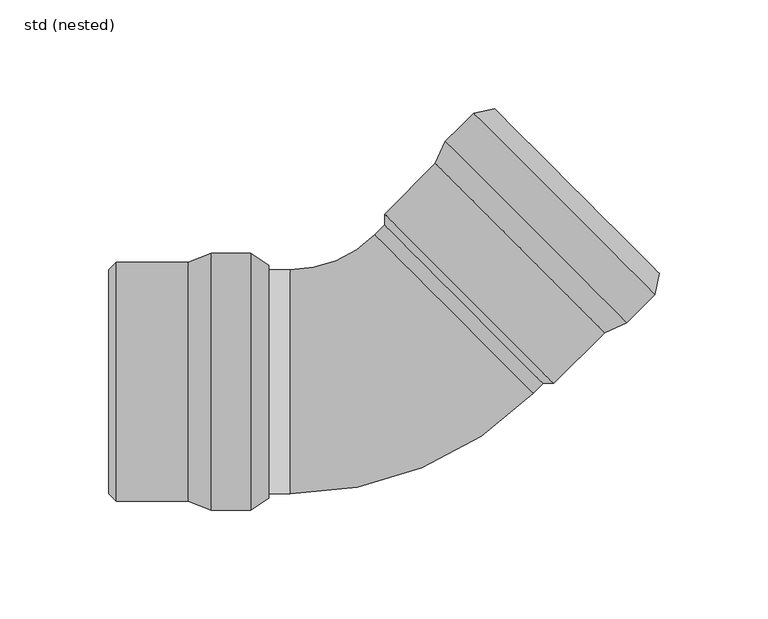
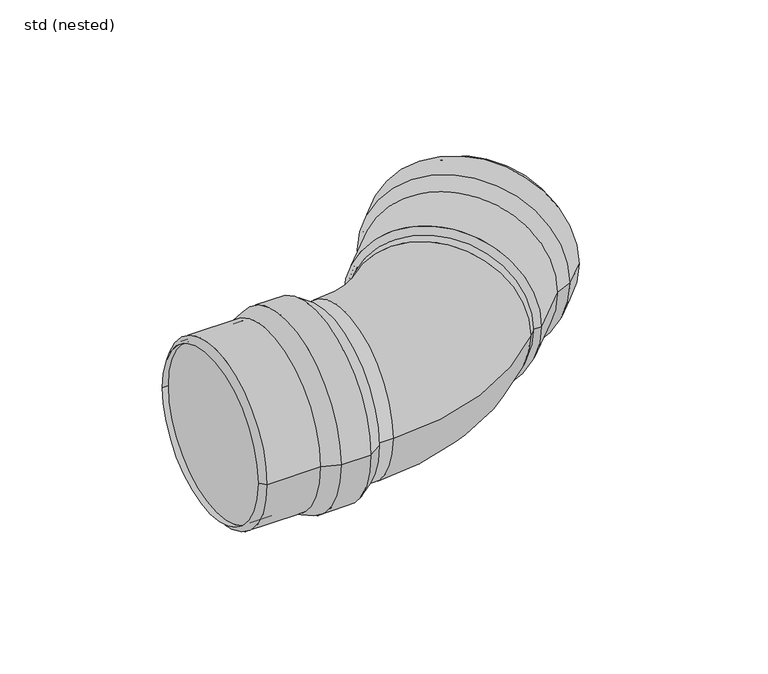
"""IFC4 building model written with IfcOpenShell, lengths in millimetres: pipe fitting geometry, ZZZ_do not use_PIF_ST_UN_GM-X pipe bend_ACO : std (nested)."""

from ifc_helpers import new_model, si_unit, point, frame, origin, place, context, project, spatial, polyline, circle_curve, ellipse_curve, trimmed, source, transform, mapped, element, save
from ifc_brep_helpers import plane_surface, cylinder_surface, revolved_surface, advanced_brep


def std_nested_a5353b42(model_context):
    return source(origin(), model_context, "Body", "AdvancedBrep", [
        advanced_brep(
        [(-80.5, -59.0, 0.0), (-80.5, 59.0, 0.0), (-62.3, 59.0, 0.0), (-62.3, -59.0, 0.0), (-91.0, -55.0, 0.0), (-91.0, 55.0, 0.0), (-54.0, 53.5, 0.0), (-54.0, -53.5, 0.0), (-124.0, -55.0, 0.0), (-124.0, 55.0, 0.0), (-127.5, -51.5, 0.0), (-127.5, 51.5, 0.0), (-124.0, -51.5, 0.0), (-124.0, 51.5, 0.0), (-90.6319487, -53.0, 0.0), (-90.6319487, 53.0, 0.0), (-124.0, 53.0, 0.0), (-124.0, -53.0, 0.0), (-80.1319487, -57.0, 0.0), (-80.1319487, 57.0, 0.0), (-62.9025117, -57.0, 0.0), (-62.9025117, 57.0, 0.0), (-55.1047607, -51.8328156, 0.0), (-55.1047607, 51.8328156, 0.0)],
        [
            (0, 1, circle_curve(frame((-80.5, 0.0, 0.0), z_axis=(1.0, 0.0, 0.0), x_axis=(0.0, 1.0, 0.0)), 59.0)),
            (1, 2),
            (2, 3, circle_curve(frame((-62.3, 0.0, 0.0), z_axis=(-1.0, 0.0, 0.0), x_axis=(0.0, 1.0, 0.0)), 59.0)),
            (3, 0),
            (1, 0, circle_curve(frame((-80.5, 0.0, 0.0), z_axis=(1.0, 0.0, 0.0), x_axis=(0.0, 1.0, 0.0)), 59.0)),
            (3, 2, circle_curve(frame((-62.3, 0.0, 0.0), z_axis=(-1.0, 0.0, 0.0), x_axis=(0.0, 1.0, 0.0)), 59.0)),
            (4, 5, circle_curve(frame((-91.0, 0.0, 0.0), z_axis=(1.0, 0.0, 0.0), x_axis=(0.0, 1.0, 0.0)), 55.0)),
            (5, 1),
            (0, 4),
            (5, 4, circle_curve(frame((-91.0, 0.0, 0.0), z_axis=(1.0, 0.0, 0.0), x_axis=(0.0, 1.0, 0.0)), 55.0)),
            (2, 6),
            (6, 7, circle_curve(frame((-54.0, 0.0, 0.0), z_axis=(-1.0, 0.0, 0.0), x_axis=(0.0, 1.0, 0.0)), 53.5)),
            (7, 3),
            (7, 6, circle_curve(frame((-54.0, 0.0, 0.0), z_axis=(-1.0, 0.0, 0.0), x_axis=(0.0, 1.0, 0.0)), 53.5)),
            (8, 9, circle_curve(frame((-124.0, 0.0, 0.0), z_axis=(1.0, 0.0, 0.0), x_axis=(0.0, 1.0, 0.0)), 55.0)),
            (9, 5),
            (4, 8),
            (9, 8, circle_curve(frame((-124.0, 0.0, 0.0), z_axis=(1.0, 0.0, 0.0), x_axis=(0.0, 1.0, 0.0)), 55.0)),
            (10, 11, circle_curve(frame((-127.5, 0.0, 0.0), z_axis=(1.0, 0.0, 0.0), x_axis=(0.0, 1.0, 0.0)), 51.5)),
            (11, 9),
            (8, 10),
            (11, 10, circle_curve(frame((-127.5, 0.0, 0.0), z_axis=(1.0, 0.0, 0.0), x_axis=(0.0, 1.0, 0.0)), 51.5)),
            (12, 13, circle_curve(frame((-124.0, 0.0, 0.0), z_axis=(1.0, 0.0, 0.0), x_axis=(0.0, 1.0, 0.0)), 51.5)),
            (13, 11),
            (10, 12),
            (13, 12, circle_curve(frame((-124.0, 0.0, 0.0), z_axis=(1.0, 0.0, 0.0), x_axis=(0.0, 1.0, 0.0)), 51.5)),
            (14, 15, circle_curve(frame((-90.6319487, 0.0, 0.0), z_axis=(1.0, 0.0, 0.0), x_axis=(0.0, 1.0, 0.0)), 53.0)),
            (15, 16),
            (16, 17, circle_curve(frame((-124.0, 0.0, 0.0), z_axis=(-1.0, 0.0, 0.0), x_axis=(0.0, 1.0, 0.0)), 53.0)),
            (17, 14),
            (15, 14, circle_curve(frame((-90.6319487, 0.0, 0.0), z_axis=(1.0, 0.0, 0.0), x_axis=(0.0, 1.0, 0.0)), 53.0)),
            (17, 16, circle_curve(frame((-124.0, 0.0, 0.0), z_axis=(-1.0, 0.0, 0.0), x_axis=(0.0, 1.0, 0.0)), 53.0)),
            (18, 19, circle_curve(frame((-80.1319487, 0.0, 0.0), z_axis=(1.0, 0.0, 0.0), x_axis=(0.0, 1.0, 0.0)), 57.0)),
            (19, 15),
            (14, 18),
            (19, 18, circle_curve(frame((-80.1319487, 0.0, 0.0), z_axis=(1.0, 0.0, 0.0), x_axis=(0.0, 1.0, 0.0)), 57.0)),
            (20, 21, circle_curve(frame((-62.9025117, 0.0, 0.0), z_axis=(1.0, 0.0, 0.0), x_axis=(0.0, 1.0, 0.0)), 57.0)),
            (21, 19),
            (18, 20),
            (21, 20, circle_curve(frame((-62.9025117, 0.0, 0.0), z_axis=(1.0, 0.0, 0.0), x_axis=(0.0, 1.0, 0.0)), 57.0)),
            (22, 23, circle_curve(frame((-55.1047607, 0.0, 0.0), z_axis=(1.0, 0.0, 0.0), x_axis=(0.0, 1.0, 0.0)), 51.8328156)),
            (23, 21),
            (20, 22),
            (23, 22, circle_curve(frame((-55.1047607, 0.0, 0.0), z_axis=(1.0, 0.0, 0.0), x_axis=(0.0, 1.0, 0.0)), 51.8328156)),
            (6, 23),
            (22, 7),
            (16, 13),
            (12, 17),
        ],
        [
            cylinder_surface(frame((-57.3555883, 0.0, 0.0), z_axis=(-1.0, 0.0, 0.0), x_axis=(0.0, 1.0, 0.0)), 59.0),
            revolved_surface(polyline([(-80.5, 59.0, 0.0), (-91.0, 55.0, 0.0)]), (-57.3555883, 0.0, 0.0), (-1.0, 0.0, 0.0)),
            revolved_surface(polyline([(-54.0, 53.5, 0.0), (-62.3, 59.0, 0.0)]), (-57.3555883, 0.0, 0.0), (-1.0, 0.0, 0.0)),
            cylinder_surface(frame((-57.3555883, 0.0, 0.0), z_axis=(-1.0, 0.0, 0.0), x_axis=(0.0, 1.0, 0.0)), 55.0),
            revolved_surface(polyline([(-124.0, 55.0, 0.0), (-127.5, 51.5, 0.0)]), (-57.3555883, 0.0, 0.0), (-1.0, 0.0, 0.0)),
            revolved_surface(polyline([(-127.5, 51.5, 0.0), (-124.0, 51.5, 0.0)]), (-57.3555883, 0.0, 0.0), (-1.0, 0.0, 0.0)),
            revolved_surface(polyline([(-124.0, 53.0, 0.0), (-90.6319487, 53.0, 0.0)]), (-57.3555883, 0.0, 0.0), (-1.0, 0.0, 0.0)),
            revolved_surface(polyline([(-90.6319487, 53.0, 0.0), (-80.1319487, 57.0, 0.0)]), (-57.3555883, 0.0, 0.0), (-1.0, 0.0, 0.0)),
            revolved_surface(polyline([(-80.1319487, 57.0, 0.0), (-62.9025117, 57.0, 0.0)]), (-57.3555883, 0.0, 0.0), (-1.0, 0.0, 0.0)),
            revolved_surface(polyline([(-62.9025117, 57.0, 0.0), (-55.1047607, 51.8328156, 0.0)]), (-57.3555883, 0.0, 0.0), (-1.0, 0.0, 0.0)),
            revolved_surface(polyline([(-55.1047607, 51.8328156, 0.0), (-54.0, 53.5, 0.0)]), (-57.3555883, 0.0, 0.0), (-1.0, 0.0, 0.0)),
            plane_surface(frame((-124.0, 0.0, 0.0), z_axis=(1.0, 0.0, 0.0), x_axis=(0.0, 1.0, 0.0))),
        ],
        [
            (0, [[1, 2, 3, 4]]),
            (0, [[5, -4, 6, -2]]),
            (1, [[7, 8, -1, 9]]),
            (1, [[10, -9, -5, -8]]),
            (2, [[-3, 11, 12, 13]]),
            (2, [[-6, -13, 14, -11]]),
            (3, [[15, 16, -7, 17]]),
            (3, [[18, -17, -10, -16]]),
            (4, [[19, 20, -15, 21]]),
            (4, [[22, -21, -18, -20]]),
            (5, [[23, 24, -19, 25]]),
            (5, [[26, -25, -22, -24]]),
            (6, [[27, 28, 29, 30]]),
            (6, [[31, -30, 32, -28]]),
            (7, [[33, 34, -27, 35]]),
            (7, [[36, -35, -31, -34]]),
            (8, [[37, 38, -33, 39]]),
            (8, [[40, -39, -36, -38]]),
            (9, [[41, 42, -37, 43]]),
            (9, [[44, -43, -40, -42]]),
            (10, [[-12, 45, -41, 46]]),
            (10, [[-14, -46, -44, -45]]),
            (11, [[-29, 47, -23, 48]]),
            (11, [[-32, -48, -26, -47]]),
        ],
    ),
        advanced_brep(
        [(110.6788446, 27.1559083, 0.0), (27.2913037, 110.6455365, 0.0), (40.1685175, 123.5070047, 0.0), (123.5560585, 40.0173765, 0.0), (100.4229865, 22.5659874, 0.0), (22.6888381, 100.3953018, 0.0), (49.9278005, 125.4809338, 0.0), (125.5419266, 49.774237, 0.0), (77.0741922, -0.7542571, 0.0), (-0.6599562, 77.0750573, 0.0), (72.1244456, -0.7512291, 0.0), (-0.6629842, 72.1253108, 0.0), (74.6008329, 1.7221302, 0.0), (1.8134031, 74.59867, 0.0), (99.270049, 24.2411581, 0.0), (24.362597, 99.2403156, 0.0), (0.753392, 75.6599789, 0.0), (75.660844, 0.6608213, 0.0), (109.5259072, 28.831079, 0.0), (28.9650625, 109.4905503, 0.0), (121.7164096, 41.0066755, 0.0), (41.155565, 121.6661468, 0.0), (123.5821091, 50.1731296, 0.0), (50.3242949, 123.5206297, 0.0)],
        [
            (0, 1, circle_curve(frame((68.9850741, 68.9007224, 0.0), z_axis=(0.7075392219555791, 0.7066740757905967, 0.0), x_axis=(-0.7066740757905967, 0.7075392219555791, 0.0)), 59.0)),
            (1, 2),
            (2, 3, circle_curve(frame((81.862288, 81.7621906, 0.0), z_axis=(-0.7075392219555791, -0.7066740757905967, 0.0), x_axis=(-0.7066740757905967, 0.7075392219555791, 0.0)), 59.0)),
            (3, 0),
            (1, 0, circle_curve(frame((68.9850741, 68.9007224, 0.0), z_axis=(0.7075392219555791, 0.7066740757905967, 0.0), x_axis=(-0.7066740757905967, 0.7075392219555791, 0.0)), 59.0)),
            (3, 2, circle_curve(frame((81.862288, 81.7621906, 0.0), z_axis=(-0.7075392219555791, -0.7066740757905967, 0.0), x_axis=(-0.7066740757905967, 0.7075392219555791, 0.0)), 59.0)),
            (4, 5, circle_curve(frame((61.5559123, 61.4806446, 0.0), z_axis=(0.7075392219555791, 0.7066740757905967, 0.0), x_axis=(-0.7066740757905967, 0.7075392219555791, 0.0)), 55.0)),
            (5, 1),
            (0, 4),
            (5, 4, circle_curve(frame((61.5559123, 61.4806446, 0.0), z_axis=(0.7075392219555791, 0.7066740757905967, 0.0), x_axis=(-0.7066740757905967, 0.7075392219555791, 0.0)), 55.0)),
            (2, 6),
            (6, 7, circle_curve(frame((87.7348635, 87.6275854, 0.0), z_axis=(-0.7075392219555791, -0.7066740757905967, 0.0), x_axis=(-0.7066740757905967, 0.7075392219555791, 0.0)), 53.5)),
            (7, 3),
            (7, 6, circle_curve(frame((87.7348635, 87.6275854, 0.0), z_axis=(-0.7075392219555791, -0.7066740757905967, 0.0), x_axis=(-0.7066740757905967, 0.7075392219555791, 0.0)), 53.5)),
            (8, 9, circle_curve(frame((38.207118, 38.1604001, 0.0), z_axis=(0.7075392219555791, 0.7066740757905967, 0.0), x_axis=(-0.7066740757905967, 0.7075392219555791, 0.0)), 55.0)),
            (9, 5),
            (4, 8),
            (9, 8, circle_curve(frame((38.207118, 38.1604001, 0.0), z_axis=(0.7075392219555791, 0.7066740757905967, 0.0), x_axis=(-0.7066740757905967, 0.7075392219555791, 0.0)), 55.0)),
            (10, 11, circle_curve(frame((35.7307307, 35.6870408, 0.0), z_axis=(0.7075392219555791, 0.7066740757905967, 0.0), x_axis=(-0.7066740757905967, 0.7075392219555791, 0.0)), 51.5)),
            (11, 9),
            (8, 10),
            (11, 10, circle_curve(frame((35.7307307, 35.6870408, 0.0), z_axis=(0.7075392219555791, 0.7066740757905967, 0.0), x_axis=(-0.7066740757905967, 0.7075392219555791, 0.0)), 51.5)),
            (12, 13, circle_curve(frame((38.207118, 38.1604001, 0.0), z_axis=(0.7075392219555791, 0.7066740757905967, 0.0), x_axis=(-0.7066740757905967, 0.7075392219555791, 0.0)), 51.5)),
            (13, 11),
            (10, 12),
            (13, 12, circle_curve(frame((38.207118, 38.1604001, 0.0), z_axis=(0.7075392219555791, 0.7066740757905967, 0.0), x_axis=(-0.7066740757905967, 0.7075392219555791, 0.0)), 51.5)),
            (14, 15, circle_curve(frame((61.816323, 61.7407369, 0.0), z_axis=(0.7075392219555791, 0.7066740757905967, 0.0), x_axis=(-0.7066740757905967, 0.7075392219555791, 0.0)), 53.0)),
            (15, 16),
            (16, 17, circle_curve(frame((38.207118, 38.1604001, 0.0), z_axis=(-0.7075392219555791, -0.7066740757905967, 0.0), x_axis=(-0.7066740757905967, 0.7075392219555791, 0.0)), 53.0)),
            (17, 14),
            (15, 14, circle_curve(frame((61.816323, 61.7407369, 0.0), z_axis=(0.7075392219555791, 0.7066740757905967, 0.0), x_axis=(-0.7066740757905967, 0.7075392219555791, 0.0)), 53.0)),
            (17, 16, circle_curve(frame((38.207118, 38.1604001, 0.0), z_axis=(-0.7075392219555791, -0.7066740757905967, 0.0), x_axis=(-0.7066740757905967, 0.7075392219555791, 0.0)), 53.0)),
            (18, 19, circle_curve(frame((69.2454848, 69.1608147, 0.0), z_axis=(0.7075392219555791, 0.7066740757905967, 0.0), x_axis=(-0.7066740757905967, 0.7075392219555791, 0.0)), 57.0)),
            (19, 15),
            (14, 18),
            (19, 18, circle_curve(frame((69.2454848, 69.1608147, 0.0), z_axis=(0.7075392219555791, 0.7066740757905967, 0.0), x_axis=(-0.7066740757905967, 0.7075392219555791, 0.0)), 57.0)),
            (20, 21, circle_curve(frame((81.4359873, 81.3364112, 0.0), z_axis=(0.7075392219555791, 0.7066740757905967, 0.0), x_axis=(-0.7066740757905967, 0.7075392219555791, 0.0)), 57.0)),
            (21, 19),
            (18, 20),
            (21, 20, circle_curve(frame((81.4359873, 81.3364112, 0.0), z_axis=(0.7075392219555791, 0.7066740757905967, 0.0), x_axis=(-0.7066740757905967, 0.7075392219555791, 0.0)), 57.0)),
            (22, 23, circle_curve(frame((86.953202, 86.8468796, 0.0), z_axis=(0.7075392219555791, 0.7066740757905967, 0.0), x_axis=(-0.7066740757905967, 0.7075392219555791, 0.0)), 51.8328156)),
            (23, 21),
            (20, 22),
            (23, 22, circle_curve(frame((86.953202, 86.8468796, 0.0), z_axis=(0.7075392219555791, 0.7066740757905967, 0.0), x_axis=(-0.7066740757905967, 0.7075392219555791, 0.0)), 51.8328156)),
            (6, 23),
            (22, 7),
            (16, 13),
            (12, 17),
        ],
        [
            cylinder_surface(frame((85.3606532, 85.2562781, 0.0), z_axis=(-0.7075392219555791, -0.7066740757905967, 0.0), x_axis=(-0.7066740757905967, 0.7075392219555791, 0.0)), 59.0),
            revolved_surface(polyline([(27.2913037, 110.6455365, 0.0), (22.6888381, 100.3953018, 0.0)]), (85.3606532, 85.2562781, 0.0), (-0.7075392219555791, -0.7066740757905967, 0.0)),
            revolved_surface(polyline([(49.9278005, 125.4809338, 0.0), (40.1685175, 123.5070047, 0.0)]), (85.3606532, 85.2562781, 0.0), (-0.7075392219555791, -0.7066740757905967, 0.0)),
            cylinder_surface(frame((85.3606532, 85.2562781, 0.0), z_axis=(-0.7075392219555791, -0.7066740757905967, 0.0), x_axis=(-0.7066740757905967, 0.7075392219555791, 0.0)), 55.0),
            revolved_surface(polyline([(-0.6599562, 77.0750573, 0.0), (-0.6629842, 72.1253108, 0.0)]), (85.3606532, 85.2562781, 0.0), (-0.7075392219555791, -0.7066740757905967, 0.0)),
            revolved_surface(polyline([(-0.6629841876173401, 72.12531071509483, 0.0), (1.8134031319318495, 74.59867002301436, 0.0)]), (85.3606532, 85.2562781, 0.0), (-0.7075392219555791, -0.7066740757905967, 0.0)),
            revolved_surface(polyline([(0.7533919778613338, 75.65997881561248, 0.0), (24.362597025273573, 99.24031562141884, 0.0)]), (85.3606532, 85.2562781, 0.0), (-0.7075392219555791, -0.7066740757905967, 0.0)),
            revolved_surface(polyline([(24.362597, 99.2403156, 0.0), (28.9650625, 109.4905503, 0.0)]), (85.3606532, 85.2562781, 0.0), (-0.7075392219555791, -0.7066740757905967, 0.0)),
            revolved_surface(polyline([(28.965062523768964, 109.49055027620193, 0.0), (41.155565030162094, 121.6661468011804, 0.0)]), (85.3606532, 85.2562781, 0.0), (-0.7075392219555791, -0.7066740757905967, 0.0)),
            revolved_surface(polyline([(41.155565, 121.6661468, 0.0), (50.3242949, 123.5206297, 0.0)]), (85.3606532, 85.2562781, 0.0), (-0.7075392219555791, -0.7066740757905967, 0.0)),
            revolved_surface(polyline([(50.3242949, 123.5206297, 0.0), (49.9278005, 125.4809338, 0.0)]), (85.3606532, 85.2562781, 0.0), (-0.7075392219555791, -0.7066740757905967, 0.0)),
            plane_surface(frame((38.207118, 38.1604001, 0.0), z_axis=(0.7075392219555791, 0.7066740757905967, 0.0), x_axis=(-0.7066740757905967, 0.7075392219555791, 0.0))),
        ],
        [
            (0, [[1, 2, 3, 4]]),
            (0, [[5, -4, 6, -2]]),
            (1, [[7, 8, -1, 9]]),
            (1, [[10, -9, -5, -8]]),
            (2, [[-3, 11, 12, 13]]),
            (2, [[-6, -13, 14, -11]]),
            (3, [[15, 16, -7, 17]]),
            (3, [[18, -17, -10, -16]]),
            (4, [[19, 20, -15, 21]]),
            (4, [[22, -21, -18, -20]]),
            (5, [[23, 24, -19, 25]]),
            (5, [[26, -25, -22, -24]]),
            (6, [[27, 28, 29, 30]]),
            (6, [[31, -30, 32, -28]]),
            (7, [[33, 34, -27, 35]]),
            (7, [[36, -35, -31, -34]]),
            (8, [[37, 38, -33, 39]]),
            (8, [[40, -39, -36, -38]]),
            (9, [[41, 42, -37, 43]]),
            (9, [[44, -43, -40, -42]]),
            (10, [[-12, 45, -41, 46]]),
            (10, [[-14, -46, -44, -45]]),
            (11, [[-29, 47, -23, 48]]),
            (11, [[-32, -48, -26, -47]]),
        ],
    ),
        advanced_brep(
        [(-5.2619891, 67.5319293, 0.0), (-44.0, 51.5, 0.0), (-44.0, -51.5, 0.0), (67.5254407, -5.3446106, 0.0), (31.1317258, 31.0936593, 51.5), (31.1317258, 31.0936593, -51.5), (-124.0, -51.5, 0.0), (-124.0, 51.5, 0.0), (74.6008329, 1.7221302, 0.0), (1.8134031, 74.59867, 0.0)],
        [
            (0, 1, circle_curve(frame((-44.0, 106.3173652, 0.0), z_axis=(0.0, 0.0, -1.0), x_axis=(0.0, -1.0, 0.0)), 54.8173652)),
            (1, 2, circle_curve(frame((-44.0, 0.0, 0.0), z_axis=(1.0, 0.0, 0.0), x_axis=(0.0, 1.0, 0.0)), 51.5)),
            (2, 3, circle_curve(frame((-44.0, 106.3173652, 0.0), z_axis=(0.0, 0.0, 1.0), x_axis=(0.0, -1.0, 0.0)), 157.8173652)),
            (3, 4, circle_curve(frame((31.1317258, 31.0936593, 0.0), z_axis=(-0.7075392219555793, -0.7066740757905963, 0.0), x_axis=(-0.7066740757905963, 0.7075392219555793, 0.0)), 51.5)),
            (4, 0, circle_curve(frame((31.1317258, 31.0936593, 0.0), z_axis=(-0.7075392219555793, -0.7066740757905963, 0.0), x_axis=(-0.7066740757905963, 0.7075392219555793, 0.0)), 51.5)),
            (0, 5, circle_curve(frame((31.1317258, 31.0936593, 0.0), z_axis=(-0.7075392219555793, -0.7066740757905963, 0.0), x_axis=(-0.7066740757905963, 0.7075392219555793, 0.0)), 51.5)),
            (5, 3, circle_curve(frame((31.1317258, 31.0936593, 0.0), z_axis=(-0.7075392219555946, -0.706674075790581, 0.0), x_axis=(-0.706674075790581, 0.7075392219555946, 0.0)), 51.5)),
            (2, 1, circle_curve(frame((-44.0, 0.0, 0.0), z_axis=(1.0, 0.0, 0.0), x_axis=(0.0, 1.0, 0.0)), 51.5)),
            (6, 7, circle_curve(frame((-124.0, 0.0, 0.0), z_axis=(-1.0, 0.0, 0.0), x_axis=(0.0, 1.0, 0.0)), 51.5)),
            (7, 6, circle_curve(frame((-124.0, 0.0, 0.0), z_axis=(-1.0, 0.0, 0.0), x_axis=(0.0, 1.0, 0.0)), 51.5)),
            (7, 1),
            (2, 6),
            (8, 9, circle_curve(frame((38.207118, 38.1604001, 0.0), z_axis=(0.7075392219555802, 0.7066740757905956, 0.0), x_axis=(-0.7066740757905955, 0.70753922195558, 0.0)), 51.5)),
            (9, 8, circle_curve(frame((38.207118, 38.1604001, 0.0), z_axis=(0.7075392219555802, 0.7066740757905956, 0.0), x_axis=(-0.7066740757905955, 0.70753922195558, 0.0)), 51.5)),
            (9, 0),
            (3, 8),
        ],
        [
            revolved_surface(trimmed(ellipse_curve(frame((-44.0, 0.0, 0.0), z_axis=(-1.0, 0.0, 0.0), x_axis=(0.0, 1.0, 0.0)), 51.5, 51.5), [point((-44.0, -51.5, 0.0))], [point((-44.0, 51.5, 0.0))], True, "CARTESIAN"), (-44.0, 106.3173652, 0.0), (0.0, 0.0, 1.0)),
            revolved_surface(trimmed(ellipse_curve(frame((-44.0, 0.0, 0.0), z_axis=(-1.0, 0.0, 0.0), x_axis=(0.0, 1.0, 0.0)), 51.5, 51.5), [point((-44.0, 51.5, 0.0))], [point((-44.0, -51.5, 0.0))], True, "CARTESIAN"), (-44.0, 106.3173652, 0.0), (0.0, 0.0, 1.0)),
            plane_surface(frame((-124.0, 51.5, 0.0), z_axis=(-1.0, 0.0, 0.0), x_axis=(0.0, 0.0, -1.0))),
            cylinder_surface(frame((-124.0, 0.0, 0.0), z_axis=(1.0, 0.0, 0.0), x_axis=(0.0, 1.0, 0.0)), 51.5),
            plane_surface(frame((38.207118, 38.1604001, 0.0), z_axis=(0.7075392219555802, 0.7066740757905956, 0.0), x_axis=(0.0, 0.0, 1.0))),
            cylinder_surface(frame((31.1317258, 31.0936593, 0.0), z_axis=(-0.70753922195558, -0.7066740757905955, 0.0), x_axis=(-0.7066740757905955, 0.70753922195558, 0.0)), 51.5),
        ],
        [
            (0, [[1, 2, 3, 4, 5]]),
            (1, [[-1, 6, 7, -3, 8]]),
            (2, [[9, 10]]),
            (3, [[-10, 11, -8, 12]]),
            (3, [[-9, -12, -2, -11]]),
            (4, [[13, 14]]),
            (5, [[-14, 15, -5, -4, 16]]),
            (5, [[-13, -16, -7, -6, -15]]),
        ],
    ),
    ])


if __name__ == "__main__":
    model = new_model("IFC4")
    model_context = context("Model", 3, world=origin())
    ifc_project = project(units=[si_unit("LENGTHUNIT", "METRE", prefix="MILLI")], contexts=[model_context])
    site = spatial("IfcSite", under=ifc_project)
    building = spatial("IfcBuilding", under=site)
    placement = place(None, origin())
    std_nested_shape = std_nested_a5353b42(model_context)
    element("IfcPipeFitting", 1, ObjectType="ZZZ_do not use_PIF_ST_UN_GM-X pipe bend_ACO : std (nested)", at=placement, inside=building, context=model_context, shape_type="MappedRepresentation", body=[
        mapped(std_nested_shape, transform((0.0, 0.0, 0.0), x_axis=(1.0, 0.0, 0.0), y_axis=(0.0, 1.0, 0.0), z_axis=(0.0, 0.0, 1.0))),
    ])
    save(model, "model.ifc")
